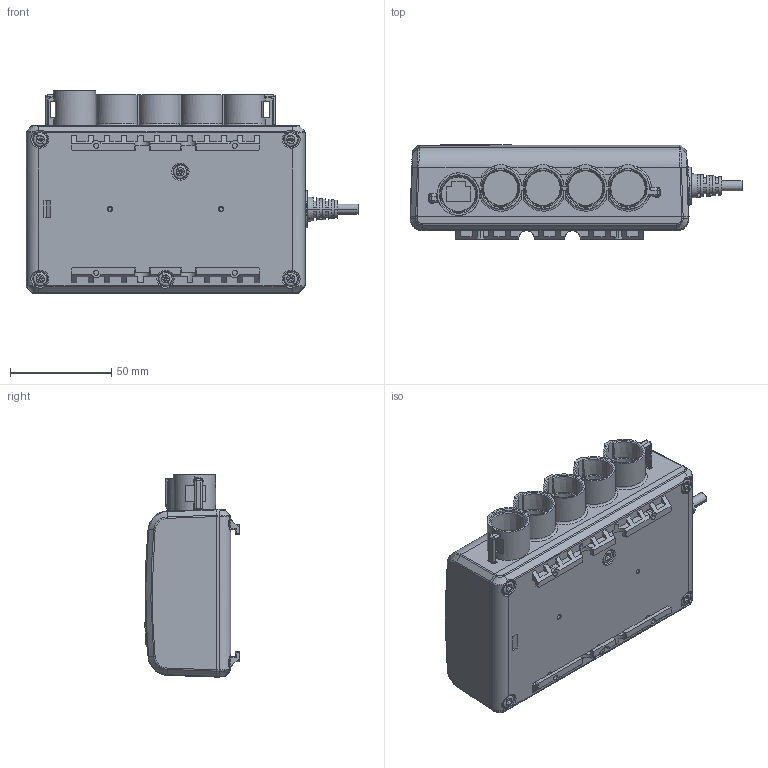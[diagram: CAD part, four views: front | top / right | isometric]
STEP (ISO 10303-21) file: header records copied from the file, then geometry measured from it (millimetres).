
FILE_DESCRIPTION (( 'STEP AP203' ), '1' );
FILE_NAME ('3D_TC14.STEP', '2014-02-18T03:14:22', ( '' ), ( '' ), 'SwSTEP 2.0', 'SolidWorks 2010', '' );
FILE_SCHEMA (( 'CONFIG_CONTROL_DESIGN' ));
Length unit declared in the file: millimetre
Products named in the file (1): 3D_TC14
Bounding box: 164.2 x 46.73 x 100 mm (x, y, z)
Volume: 467808.1 mm3; surface area: 52292.4 mm2
Topology: 1 solids, 1 shells, 1720 faces, 4622 edges, 2934 vertices
Faces by surface type: plane 1158, cylinder 320, cone 106, bspline 96, torus 36, sphere 4
Entity records: 69998 total; most frequent: CARTESIAN_POINT 31159, ORIENTED_EDGE 9236, DIRECTION 6877, EDGE_CURVE 4618, VERTEX_POINT 2934, AXIS2_PLACEMENT_3D 2364, LINE 2149, VECTOR 2149
